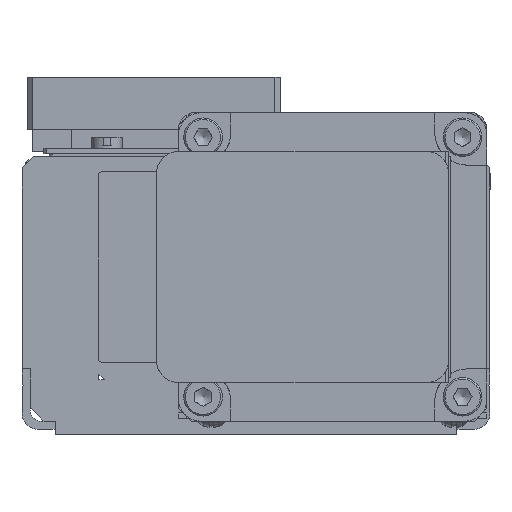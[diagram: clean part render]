
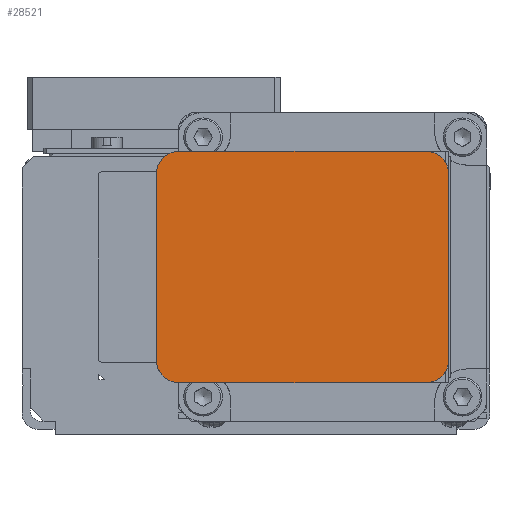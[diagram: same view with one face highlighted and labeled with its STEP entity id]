
A CAD part, left-side view. The second image highlights one B-rep face of the part: STEP entity #28521.
In plain terms, the highlighted planar face has unit normal (-1, 0, 0).
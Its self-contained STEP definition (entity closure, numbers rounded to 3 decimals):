
#28264=CARTESIAN_POINT('',(-161.5,-30.95,51.5));
#28265=VERTEX_POINT('',#28264);
#28272=CARTESIAN_POINT('',(-161.5,-34.95,47.5));
#28273=VERTEX_POINT('',#28272);
#28274=CARTESIAN_POINT('',(-161.5,-30.95,47.5));
#28275=DIRECTION('',(-1.0,0.0,0.0));
#28276=DIRECTION('',(0.0,-1.0,0.0));
#28277=AXIS2_PLACEMENT_3D('',#28274,#28275,#28276);
#28278=CIRCLE('',#28277,4.);
#28279=EDGE_CURVE('',#28273,#28265,#28278,.T.);
#28352=CARTESIAN_POINT('',(-161.5,-34.95,13.5));
#28353=VERTEX_POINT('',#28352);
#28360=CARTESIAN_POINT('',(-161.5,-30.95,9.5));
#28361=VERTEX_POINT('',#28360);
#28362=CARTESIAN_POINT('',(-161.5,-30.95,13.5));
#28363=DIRECTION('',(-1.0,0.0,0.0));
#28364=DIRECTION('',(0.0,0.0,-1.0));
#28365=AXIS2_PLACEMENT_3D('',#28362,#28363,#28364);
#28366=CIRCLE('',#28365,4.);
#28367=EDGE_CURVE('',#28361,#28353,#28366,.T.);
#28397=CARTESIAN_POINT('',(-161.5,18.05,47.5));
#28398=VERTEX_POINT('',#28397);
#28405=CARTESIAN_POINT('',(-161.5,14.05,51.5));
#28406=VERTEX_POINT('',#28405);
#28407=CARTESIAN_POINT('',(-161.5,14.05,47.5));
#28408=DIRECTION('',(-1.0,0.0,0.0));
#28409=DIRECTION('',(0.0,0.0,1.0));
#28410=AXIS2_PLACEMENT_3D('',#28407,#28408,#28409);
#28411=CIRCLE('',#28410,4.);
#28412=EDGE_CURVE('',#28406,#28398,#28411,.T.);
#28460=CARTESIAN_POINT('',(-161.5,14.05,9.5));
#28461=VERTEX_POINT('',#28460);
#28468=CARTESIAN_POINT('',(-161.5,18.05,13.5));
#28469=VERTEX_POINT('',#28468);
#28470=CARTESIAN_POINT('',(-161.5,14.05,13.5));
#28471=DIRECTION('',(-1.0,0.0,0.0));
#28472=DIRECTION('',(0.0,1.0,0.0));
#28473=AXIS2_PLACEMENT_3D('',#28470,#28471,#28472);
#28474=CIRCLE('',#28473,4.);
#28475=EDGE_CURVE('',#28469,#28461,#28474,.T.);
#28486=CARTESIAN_POINT('',(-161.5,18.05,30.5));
#28487=DIRECTION('',(-1.0,0.0,0.0));
#28488=DIRECTION('',(0.0,1.0,0.0));
#28489=AXIS2_PLACEMENT_3D('',#28486,#28487,#28488);
#28490=PLANE('',#28489);
#28491=ORIENTED_EDGE('',*,*,#28279,.T.);
#28492=CARTESIAN_POINT('',(-161.5,-30.95,51.5));
#28493=DIRECTION('',(0.0,1.0,0.0));
#28494=VECTOR('',#28493,45.0);
#28495=LINE('',#28492,#28494);
#28496=EDGE_CURVE('',#28265,#28406,#28495,.T.);
#28497=ORIENTED_EDGE('',*,*,#28496,.T.);
#28498=ORIENTED_EDGE('',*,*,#28412,.T.);
#28499=CARTESIAN_POINT('',(-161.5,18.05,13.5));
#28500=DIRECTION('',(0.0,0.0,1.0));
#28501=VECTOR('',#28500,34.0);
#28502=LINE('',#28499,#28501);
#28503=EDGE_CURVE('',#28469,#28398,#28502,.T.);
#28504=ORIENTED_EDGE('',*,*,#28503,.F.);
#28505=ORIENTED_EDGE('',*,*,#28475,.T.);
#28506=CARTESIAN_POINT('',(-161.5,14.05,9.5));
#28507=DIRECTION('',(0.0,-1.0,0.0));
#28508=VECTOR('',#28507,45.0);
#28509=LINE('',#28506,#28508);
#28510=EDGE_CURVE('',#28461,#28361,#28509,.T.);
#28511=ORIENTED_EDGE('',*,*,#28510,.T.);
#28512=ORIENTED_EDGE('',*,*,#28367,.T.);
#28513=CARTESIAN_POINT('',(-161.5,-34.95,47.5));
#28514=DIRECTION('',(0.0,0.0,-1.0));
#28515=VECTOR('',#28514,34.0);
#28516=LINE('',#28513,#28515);
#28517=EDGE_CURVE('',#28273,#28353,#28516,.T.);
#28518=ORIENTED_EDGE('',*,*,#28517,.F.);
#28519=EDGE_LOOP('',(#28491,#28497,#28498,#28504,#28505,#28511,#28512,#28518));
#28520=FACE_OUTER_BOUND('',#28519,.T.);
#28521=ADVANCED_FACE('',(#28520),#28490,.T.);
